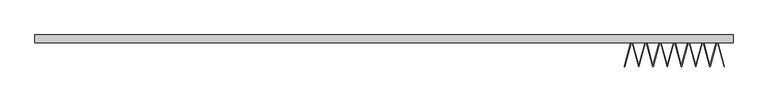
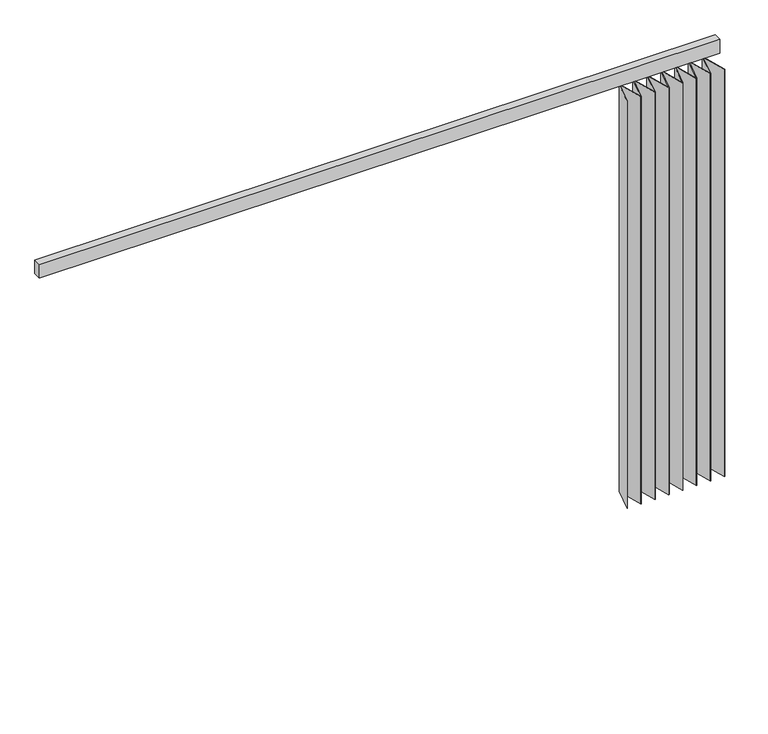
"""IFC4 building model written with IfcOpenShell, lengths in millimetres: furniture geometry, BIMHealth-Curtain_Dialysis-LOD2A-v1 : BIMHealth-Curtain_Dialysis-LOD2A-v1."""

from ifc_helpers import new_model, si_unit, frame, origin, place, context, project, spatial, polyline, outline, extrude, source, transform, mapped, element, save


def furniture_fd4004e2(model_context):
    return source(origin(), model_context, "Body", "SweptSolid", [
        extrude(outline(polyline([(3514.1177586, 40.0), (3514.1177586, 0.0), (0.0, 0.0), (0.0, 40.0), (3514.1177586, 40.0)])), frame((0.0, 0.0, 2325.0), z_axis=(0.0, 0.0, 1.0), x_axis=(1.0, 0.0, 0.0)), (0.0, 0.0, 1.0), 75.0),
        extrude(outline(polyline([(3002.3174886, 13.8426086), (3004.388041, 13.8426086), (3039.2157837, -116.1362967), (3074.0435264, 13.8426086), (3076.1140788, 13.8426086), (3110.9418215, -116.1362967), (3145.7695642, 13.8426086), (3147.8401165, 13.8426086), (3182.6678593, -116.1362967), (3217.495602, 13.8426086), (3219.5661543, 13.8426086), (3254.393897, -116.1362967), (3289.2216397, 13.8426086), (3291.2921921, 13.8426086), (3326.1199348, -116.1362967), (3360.9476775, 13.8426086), (3363.0182299, 13.8426086), (3397.8459726, -116.1362967), (3432.6737153, 13.8426086), (3434.7442676, 13.8426086), (3470.6072865, -120.0), (3468.6754349, -120.5176381), (3433.7089915, 9.9789053), (3398.8812488, -120.0), (3396.8106964, -120.0), (3361.9829537, 9.9789053), (3327.155211, -120.0), (3325.0846586, -120.0), (3290.2569159, 9.9789053), (3255.4291732, -120.0), (3253.3586208, -120.0), (3218.5308781, 9.9789053), (3183.7031354, -120.0), (3181.6325831, -120.0), (3146.8048404, 9.9789053), (3111.9770977, -120.0), (3109.9065453, -120.0), (3075.0788026, 9.9789053), (3040.2510599, -120.0), (3038.1805075, -120.0), (3003.3527648, 9.9789053), (2968.3863214, -120.5176381), (2966.4544698, -120.0), (3002.3174886, 13.8426086)])), frame((0.0, 0.0, 100.0), z_axis=(0.0, 0.0, 1.0), x_axis=(1.0, 0.0, 0.0)), (0.0, 0.0, 1.0), 2225.0),
    ])


if __name__ == "__main__":
    model = new_model("IFC4")
    model_context = context("Model", 3, world=origin())
    ifc_project = project(units=[si_unit("LENGTHUNIT", "METRE", prefix="MILLI")], contexts=[model_context])
    site = spatial("IfcSite", under=ifc_project)
    building = spatial("IfcBuilding", under=site)
    placement = place(None, origin())
    furniture_shape = furniture_fd4004e2(model_context)
    element("IfcFurniture", 1, ObjectType="BIMHealth-Curtain_Dialysis-LOD2A-v1 : BIMHealth-Curtain_Dialysis-LOD2A-v1", at=placement, inside=building, context=model_context, shape_type="MappedRepresentation", body=[
        mapped(furniture_shape, transform((0.0, 0.0, 0.0), x_axis=(1.0, 0.0, 0.0), y_axis=(0.0, 1.0, 0.0), z_axis=(0.0, 0.0, 1.0))),
    ])
    save(model, "model.ifc")
